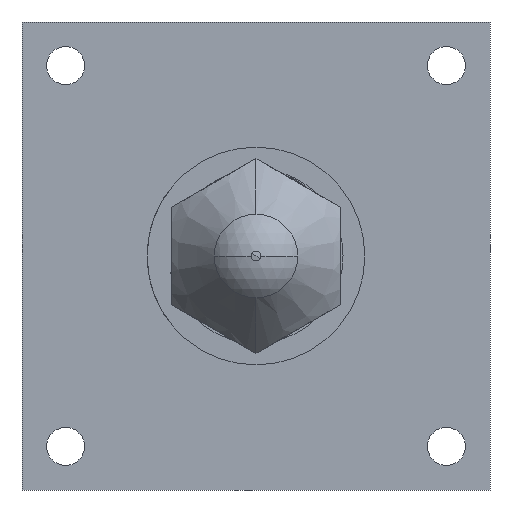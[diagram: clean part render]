
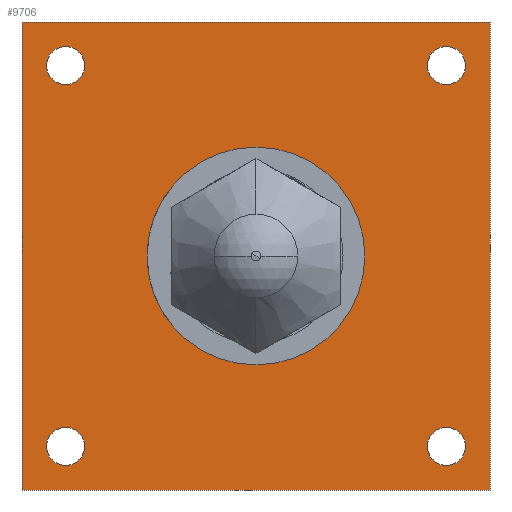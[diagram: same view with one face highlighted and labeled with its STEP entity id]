
A CAD part, left-side view. The second image highlights one B-rep face of the part: STEP entity #9706.
In plain terms, the highlighted planar face has unit normal (-1, 0, 0).
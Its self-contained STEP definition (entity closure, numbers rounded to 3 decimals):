
#133 = CARTESIAN_POINT ( 'NONE',  ( 282., 35., -38.5 ) ) ;
#220 = AXIS2_PLACEMENT_3D ( 'NONE', #11922, #12929, #11867 ) ;
#300 = PLANE ( 'NONE',  #2253 ) ;
#321 = CARTESIAN_POINT ( 'NONE',  ( 282., 43., 43. ) ) ;
#341 = CARTESIAN_POINT ( 'NONE',  ( 282., -35., -31.5 ) ) ;
#442 = FACE_BOUND ( 'NONE', #10197, .T. ) ;
#473 = CIRCLE ( 'NONE', #1372, 3.5 ) ;
#530 = DIRECTION ( 'NONE',  ( 0., -1., 0. ) ) ;
#588 = ORIENTED_EDGE ( 'NONE', *, *, #1276, .T. ) ;
#671 = DIRECTION ( 'NONE',  ( 0., 0., -1. ) ) ;
#704 = EDGE_CURVE ( 'NONE', #2744, #8605, #14817, .T. ) ;
#788 = CARTESIAN_POINT ( 'NONE',  ( 282., 0., 20. ) ) ;
#857 = CIRCLE ( 'NONE', #220, 3.5 ) ;
#1116 = VERTEX_POINT ( 'NONE', #2674 ) ;
#1177 = CIRCLE ( 'NONE', #14648, 3.5 ) ;
#1191 = VECTOR ( 'NONE', #9053, 1000. ) ;
#1261 = CARTESIAN_POINT ( 'NONE',  ( 282., -35., 38.5 ) ) ;
#1276 = EDGE_CURVE ( 'NONE', #13371, #12877, #13014, .T. ) ;
#1372 = AXIS2_PLACEMENT_3D ( 'NONE', #9887, #8832, #13345 ) ;
#1391 = VERTEX_POINT ( 'NONE', #11128 ) ;
#1751 = CIRCLE ( 'NONE', #5971, 20. ) ;
#1864 = DIRECTION ( 'NONE',  ( 1., 0., 0. ) ) ;
#1866 = CARTESIAN_POINT ( 'NONE',  ( 282., 0., 0. ) ) ;
#1986 = CARTESIAN_POINT ( 'NONE',  ( 282., -35., 31.5 ) ) ;
#2078 = CARTESIAN_POINT ( 'NONE',  ( 282., 43., -43. ) ) ;
#2138 = DIRECTION ( 'NONE',  ( 1., 0., 0. ) ) ;
#2253 = AXIS2_PLACEMENT_3D ( 'NONE', #9471, #10618, #5154 ) ;
#2401 = FACE_BOUND ( 'NONE', #8926, .T. ) ;
#2674 = CARTESIAN_POINT ( 'NONE',  ( 282., -35., -38.5 ) ) ;
#2744 = VERTEX_POINT ( 'NONE', #5225 ) ;
#2775 = VECTOR ( 'NONE', #530, 1000. ) ;
#2798 = EDGE_CURVE ( 'NONE', #13367, #5893, #9791, .T. ) ;
#2868 = EDGE_CURVE ( 'NONE', #12823, #6741, #11935, .T. ) ;
#2996 = EDGE_CURVE ( 'NONE', #1391, #5676, #14631, .T. ) ;
#3077 = ORIENTED_EDGE ( 'NONE', *, *, #14246, .T. ) ;
#3079 = CIRCLE ( 'NONE', #13269, 3.5 ) ;
#3341 = CARTESIAN_POINT ( 'NONE',  ( 282., 35., 31.5 ) ) ;
#3421 = VECTOR ( 'NONE', #5274, 1000. ) ;
#3842 = ORIENTED_EDGE ( 'NONE', *, *, #8283, .T. ) ;
#4257 = LINE ( 'NONE', #2078, #1191 ) ;
#4339 = CIRCLE ( 'NONE', #6347, 3.5 ) ;
#4474 = EDGE_CURVE ( 'NONE', #8605, #2744, #1751, .T. ) ;
#4610 = DIRECTION ( 'NONE',  ( 1., 0., 0. ) ) ;
#4733 = ORIENTED_EDGE ( 'NONE', *, *, #8991, .F. ) ;
#4924 = DIRECTION ( 'NONE',  ( 0., 0., 1. ) ) ;
#5004 = DIRECTION ( 'NONE',  ( 1., 0., 0. ) ) ;
#5094 = ORIENTED_EDGE ( 'NONE', *, *, #14225, .F. ) ;
#5154 = DIRECTION ( 'NONE',  ( 0., 0., -1. ) ) ;
#5157 = ORIENTED_EDGE ( 'NONE', *, *, #6316, .T. ) ;
#5187 = EDGE_CURVE ( 'NONE', #14038, #1116, #857, .T. ) ;
#5197 = CARTESIAN_POINT ( 'NONE',  ( 282., -35., 35. ) ) ;
#5225 = CARTESIAN_POINT ( 'NONE',  ( 282., 0., -20. ) ) ;
#5274 = DIRECTION ( 'NONE',  ( 0., 1., 0. ) ) ;
#5318 = EDGE_CURVE ( 'NONE', #5728, #6397, #4257, .T. ) ;
#5400 = CARTESIAN_POINT ( 'NONE',  ( 282., -43., 43. ) ) ;
#5557 = AXIS2_PLACEMENT_3D ( 'NONE', #5197, #14345, #7517 ) ;
#5630 = CARTESIAN_POINT ( 'NONE',  ( 282., 0., 0. ) ) ;
#5676 = VERTEX_POINT ( 'NONE', #3341 ) ;
#5701 = CARTESIAN_POINT ( 'NONE',  ( 282., 35., 35. ) ) ;
#5728 = VERTEX_POINT ( 'NONE', #12679 ) ;
#5752 = CARTESIAN_POINT ( 'NONE',  ( 282., -35., -35. ) ) ;
#5893 = VERTEX_POINT ( 'NONE', #12010 ) ;
#5971 = AXIS2_PLACEMENT_3D ( 'NONE', #5630, #11261, #6757 ) ;
#6052 = ORIENTED_EDGE ( 'NONE', *, *, #13666, .T. ) ;
#6316 = EDGE_CURVE ( 'NONE', #5893, #13367, #1177, .T. ) ;
#6347 = AXIS2_PLACEMENT_3D ( 'NONE', #5752, #5004, #10314 ) ;
#6397 = VERTEX_POINT ( 'NONE', #321 ) ;
#6456 = DIRECTION ( 'NONE',  ( -1., 0., 0. ) ) ;
#6570 = AXIS2_PLACEMENT_3D ( 'NONE', #13510, #1864, #8897 ) ;
#6607 = DIRECTION ( 'NONE',  ( 0., 0., -1. ) ) ;
#6706 = ORIENTED_EDGE ( 'NONE', *, *, #2798, .T. ) ;
#6741 = VERTEX_POINT ( 'NONE', #8437 ) ;
#6757 = DIRECTION ( 'NONE',  ( 0., 0., -1. ) ) ;
#7240 = DIRECTION ( 'NONE',  ( 1., 0., 0. ) ) ;
#7268 = EDGE_LOOP ( 'NONE', ( #3077, #13703 ) ) ;
#7517 = DIRECTION ( 'NONE',  ( 0., 0., 1. ) ) ;
#7696 = CARTESIAN_POINT ( 'NONE',  ( 282., -43., -43. ) ) ;
#7977 = DIRECTION ( 'NONE',  ( 0., 0., -1. ) ) ;
#8117 = LINE ( 'NONE', #11488, #3421 ) ;
#8283 = EDGE_CURVE ( 'NONE', #12877, #13371, #473, .T. ) ;
#8437 = CARTESIAN_POINT ( 'NONE',  ( 282., -43., -43. ) ) ;
#8517 = FACE_BOUND ( 'NONE', #7268, .T. ) ;
#8605 = VERTEX_POINT ( 'NONE', #788 ) ;
#8708 = FACE_BOUND ( 'NONE', #10126, .T. ) ;
#8832 = DIRECTION ( 'NONE',  ( 1., 0., 0. ) ) ;
#8897 = DIRECTION ( 'NONE',  ( 0., 0., 1. ) ) ;
#8926 = EDGE_LOOP ( 'NONE', ( #6052, #11925 ) ) ;
#8991 = EDGE_CURVE ( 'NONE', #6397, #12823, #12301, .T. ) ;
#8994 = CARTESIAN_POINT ( 'NONE',  ( 282., 35., 35. ) ) ;
#9046 = EDGE_LOOP ( 'NONE', ( #4733, #12536, #5094, #10913 ) ) ;
#9053 = DIRECTION ( 'NONE',  ( 0., 0., 1. ) ) ;
#9471 = CARTESIAN_POINT ( 'NONE',  ( 282., 0., 0. ) ) ;
#9613 = VECTOR ( 'NONE', #6607, 1000. ) ;
#9706 = ADVANCED_FACE ( 'NONE', ( #8708, #10311, #8517, #442, #2401, #14087 ), #300, .F. ) ;
#9791 = CIRCLE ( 'NONE', #6570, 3.5 ) ;
#9887 = CARTESIAN_POINT ( 'NONE',  ( 282., -35., 35. ) ) ;
#10126 = EDGE_LOOP ( 'NONE', ( #12084, #13732 ) ) ;
#10197 = EDGE_LOOP ( 'NONE', ( #6706, #5157 ) ) ;
#10311 = FACE_BOUND ( 'NONE', #12064, .T. ) ;
#10314 = DIRECTION ( 'NONE',  ( 0., 0., -1. ) ) ;
#10542 = AXIS2_PLACEMENT_3D ( 'NONE', #1866, #6456, #671 ) ;
#10618 = DIRECTION ( 'NONE',  ( 1., 0., 0. ) ) ;
#10862 = CARTESIAN_POINT ( 'NONE',  ( 282., -43., 43. ) ) ;
#10913 = ORIENTED_EDGE ( 'NONE', *, *, #2868, .F. ) ;
#11128 = CARTESIAN_POINT ( 'NONE',  ( 282., 35., 38.5 ) ) ;
#11261 = DIRECTION ( 'NONE',  ( -1., 0., 0. ) ) ;
#11488 = CARTESIAN_POINT ( 'NONE',  ( 282., -43., -43. ) ) ;
#11867 = DIRECTION ( 'NONE',  ( 0., 0., -1. ) ) ;
#11920 = AXIS2_PLACEMENT_3D ( 'NONE', #8994, #4610, #7977 ) ;
#11922 = CARTESIAN_POINT ( 'NONE',  ( 282., -35., -35. ) ) ;
#11925 = ORIENTED_EDGE ( 'NONE', *, *, #2996, .T. ) ;
#11935 = LINE ( 'NONE', #7696, #9613 ) ;
#12010 = CARTESIAN_POINT ( 'NONE',  ( 282., 35., -31.5 ) ) ;
#12064 = EDGE_LOOP ( 'NONE', ( #3842, #588 ) ) ;
#12084 = ORIENTED_EDGE ( 'NONE', *, *, #704, .F. ) ;
#12301 = LINE ( 'NONE', #10862, #2775 ) ;
#12536 = ORIENTED_EDGE ( 'NONE', *, *, #5318, .F. ) ;
#12679 = CARTESIAN_POINT ( 'NONE',  ( 282., 43., -43. ) ) ;
#12792 = CARTESIAN_POINT ( 'NONE',  ( 282., 35., -35. ) ) ;
#12823 = VERTEX_POINT ( 'NONE', #5400 ) ;
#12877 = VERTEX_POINT ( 'NONE', #1986 ) ;
#12929 = DIRECTION ( 'NONE',  ( 1., 0., 0. ) ) ;
#13014 = CIRCLE ( 'NONE', #5557, 3.5 ) ;
#13269 = AXIS2_PLACEMENT_3D ( 'NONE', #5701, #2138, #13678 ) ;
#13345 = DIRECTION ( 'NONE',  ( 0., 0., 1. ) ) ;
#13367 = VERTEX_POINT ( 'NONE', #133 ) ;
#13371 = VERTEX_POINT ( 'NONE', #1261 ) ;
#13510 = CARTESIAN_POINT ( 'NONE',  ( 282., 35., -35. ) ) ;
#13666 = EDGE_CURVE ( 'NONE', #5676, #1391, #3079, .T. ) ;
#13678 = DIRECTION ( 'NONE',  ( 0., 0., -1. ) ) ;
#13703 = ORIENTED_EDGE ( 'NONE', *, *, #5187, .T. ) ;
#13732 = ORIENTED_EDGE ( 'NONE', *, *, #4474, .F. ) ;
#14038 = VERTEX_POINT ( 'NONE', #341 ) ;
#14087 = FACE_OUTER_BOUND ( 'NONE', #9046, .T. ) ;
#14225 = EDGE_CURVE ( 'NONE', #6741, #5728, #8117, .T. ) ;
#14246 = EDGE_CURVE ( 'NONE', #1116, #14038, #4339, .T. ) ;
#14345 = DIRECTION ( 'NONE',  ( 1., 0., 0. ) ) ;
#14631 = CIRCLE ( 'NONE', #11920, 3.5 ) ;
#14648 = AXIS2_PLACEMENT_3D ( 'NONE', #12792, #7240, #4924 ) ;
#14817 = CIRCLE ( 'NONE', #10542, 20. ) ;
